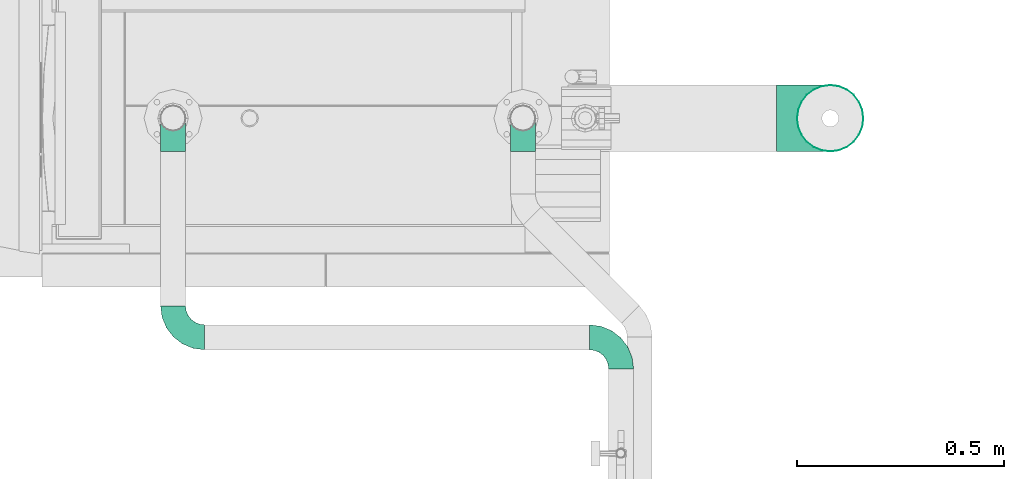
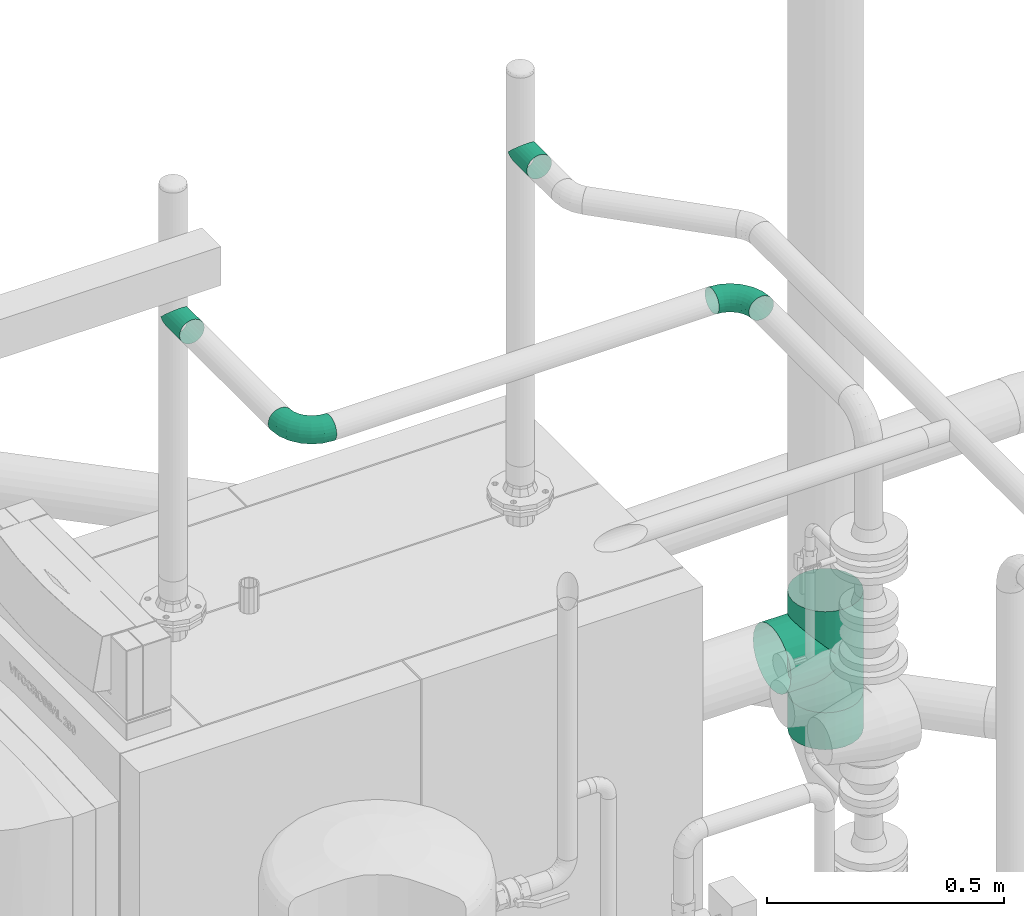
# One storey, part 118 of 374: 5 flow segments, 1 flow fitting.
"""IFC2X3 building model written with IfcOpenShell, lengths in metres."""

from ifc_helpers import new_model, si_unit, direction, origin, place, context, subcontext, project, spatial, open_shell, surface_model, source, transform, mapped, element, save


model = new_model("IFC2X3")

# Units and contexts
model_context = context("Model", 3, precision=1e-05, world=origin(), true_north=direction((-0.4480736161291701, 0.8939966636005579)))
body_context = subcontext(model_context, "Body", "Model", "MODEL_VIEW")
ifc_project = project(units=[si_unit("LENGTHUNIT", "METRE"), si_unit("AREAUNIT", "SQUARE_METRE"), si_unit("VOLUMEUNIT", "CUBIC_METRE"), si_unit("PLANEANGLEUNIT", "RADIAN"), si_unit("THERMODYNAMICTEMPERATUREUNIT", "KELVIN"), si_unit("MASSUNIT", "GRAM", prefix="KILO"), si_unit("TIMEUNIT", "SECOND")], contexts=[model_context])

# Site, building, storey
site_placement = place(None, origin())
site = spatial("IfcSite", under=ifc_project, at=site_placement, Name="Site 1", CompositionType="ELEMENT")
building_placement = place(site_placement, origin())
building = spatial("IfcBuilding", under=site, at=building_placement, Name="Undefined", CompositionType="ELEMENT")
storey_placement = place(building_placement, origin())
storey = spatial("IfcBuildingStorey", under=building, at=storey_placement, Name="Rez de chauss\x8ee", CompositionType="ELEMENT", Elevation=0.0)

# Flow segment
shared_shape_1 = source(origin(), body_context, "Body", "SurfaceModel", [
    surface_model("IfcFaceBasedSurfaceModel", [(0.0, 0.020884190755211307, 0.0), (0.0, 0.0, 0.0), (0.09500000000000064, -7.105427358e-15, 0.0), (0.09499999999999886, 0.020884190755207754, 0.0), (0.0, -0.020172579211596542, -0.005405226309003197), (0.09499999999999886, -0.020172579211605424, -0.005405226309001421), (0.0, -0.03825881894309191, -0.015847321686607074), (0.09499999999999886, -0.03825881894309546, -0.015847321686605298), (0.0, -0.05302617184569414, -0.0306146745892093), (0.09499999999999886, -0.05302617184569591, -0.030614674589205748), (0.0, -0.06346826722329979, -0.04870091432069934), (0.09499999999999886, -0.06346826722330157, -0.048700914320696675), (0.0, -0.06887349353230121, -0.06887349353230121), (0.09499999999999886, -0.06887349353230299, -0.06887349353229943), (0.0, -0.06887349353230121, -0.08975768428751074), (0.09499999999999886, -0.06887349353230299, -0.08975768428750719), (0.0, -0.06346826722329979, -0.10993026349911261), (0.09499999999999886, -0.06346826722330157, -0.10993026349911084), (0.0, -0.05302617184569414, -0.12801650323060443), (0.09499999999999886, -0.05302617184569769, -0.12801650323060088), (0.0, -0.038258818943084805, -0.14278385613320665), (0.09499999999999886, -0.03825881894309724, -0.1427838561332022), (0.0, -0.020172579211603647, -0.15322595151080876), (0.09499999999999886, -0.0201725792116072, -0.15322595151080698), (0.0, 7.105427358e-15, -0.15863117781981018), (0.09499999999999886, -3.552713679e-15, -0.1586311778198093), (0.0, 0.020884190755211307, -0.15863117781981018), (0.09499999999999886, 0.0208841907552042, -0.1586311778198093), (0.0, 0.04105676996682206, -0.15322595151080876), (0.09499999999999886, 0.04105676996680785, -0.15322595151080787), (0.0, 0.05914300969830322, -0.1427838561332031), (0.09499999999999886, 0.059143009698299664, -0.142783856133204), (0.0, 0.07391036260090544, -0.12801650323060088), (0.09499999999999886, 0.07391036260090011, -0.12801650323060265), (0.0, 0.0843524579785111, -0.10993026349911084), (0.09499999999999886, 0.08435245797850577, -0.10993026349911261), (0.0, 0.08975768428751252, -0.08975768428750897), (0.09499999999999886, 0.08975768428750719, -0.08975768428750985), (0.0, 0.08975768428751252, -0.06887349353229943), (0.09499999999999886, 0.08975768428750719, -0.06887349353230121), (0.0, 0.0843524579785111, -0.048700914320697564), (0.09499999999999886, 0.08435245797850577, -0.04870091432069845), (0.0, 0.07391036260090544, -0.030614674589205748), (0.09499999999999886, 0.07391036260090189, -0.030614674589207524), (0.0, 0.05914300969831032, -0.015847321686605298), (0.09499999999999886, 0.059143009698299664, -0.015847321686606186), (0.0, 0.04105676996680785, -0.005405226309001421), (0.09499999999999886, 0.041056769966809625, -0.005405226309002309)], [open_shell([[[0, 1, 2, 3]], [[1, 4, 5, 2]], [[4, 6, 7, 5]], [[6, 8, 9, 7]], [[8, 10, 11, 9]], [[10, 12, 13, 11]], [[12, 14, 15, 13]], [[14, 16, 17, 15]], [[16, 18, 19, 17]], [[18, 20, 21, 19]], [[20, 22, 23, 21]], [[22, 24, 25, 23]], [[24, 26, 27, 25]], [[26, 28, 29, 27]], [[28, 30, 31, 29]], [[30, 32, 33, 31]], [[32, 34, 35, 33]], [[34, 36, 37, 35]], [[36, 38, 39, 37]], [[38, 40, 41, 39]], [[40, 42, 43, 41]], [[42, 44, 45, 43]], [[44, 46, 47, 45]], [[46, 0, 3, 47]]])]),
])
flow_segment_1_placement = place(storey_placement, origin())
element("IfcFlowSegment", 1, at=flow_segment_1_placement, inside=storey, Name="Manchon", ObjectType="Manchon", context=body_context, shape_type="MappedRepresentation", body=[
    mapped(shared_shape_1, transform((55.52532337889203, 13.133209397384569, 0.530590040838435), x_axis=(0.0, 0.0, -1.0), y_axis=(-0.9914448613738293, 0.13052619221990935, 0.0), z_axis=(0.13052619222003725, 0.9914448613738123, 0.0))),
])

# Flow fitting
shared_shape_2 = source(origin(), body_context, "Body", "SurfaceModel", [
    surface_model("IfcFaceBasedSurfaceModel", [(0.0, 0.020884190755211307, 0.0), (0.0, 0.0, 0.0), (0.2599999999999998, -7.105427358e-15, 0.0), (0.2599999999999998, 0.0208841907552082, -4.4408921e-16), (0.0, -0.020172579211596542, -0.005405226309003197), (0.2599999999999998, -0.020172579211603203, -0.005405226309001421), (0.0, -0.03825881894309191, -0.015847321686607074), (0.2599999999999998, -0.038258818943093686, -0.015847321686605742), (0.0, -0.05302617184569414, -0.0306146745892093), (0.2599999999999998, -0.053026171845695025, -0.030614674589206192), (0.0, -0.06346826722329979, -0.04870091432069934), (0.2599999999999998, -0.06346826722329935, -0.04870091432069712), (0.0, -0.06887349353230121, -0.06887349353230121), (0.2599999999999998, -0.06887349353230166, -0.06887349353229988), (0.0, -0.06887349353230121, -0.08975768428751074), (0.2599999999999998, -0.06887349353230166, -0.08975768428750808), (0.0, -0.06346826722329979, -0.10993026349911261), (0.2599999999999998, -0.06346826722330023, -0.10993026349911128), (0.0, -0.05302617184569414, -0.12801650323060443), (0.2599999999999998, -0.05302617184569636, -0.12801650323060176), (0.0, -0.038258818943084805, -0.14278385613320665), (0.2599999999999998, -0.03825881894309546, -0.1427838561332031), (0.0, -0.020172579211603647, -0.15322595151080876), (0.2599999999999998, -0.02017257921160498, -0.15322595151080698), (0.0, 7.105427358e-15, -0.15863117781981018), (0.2599999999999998, -1.776356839e-15, -0.15863117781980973), (0.0, 0.020884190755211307, -0.15863117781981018), (0.2599999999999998, 0.020884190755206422, -0.15863117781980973), (0.0, 0.04105676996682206, -0.15322595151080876), (0.2599999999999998, 0.04105676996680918, -0.1532259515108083), (0.0, 0.05914300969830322, -0.1427838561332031), (0.2599999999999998, 0.059143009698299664, -0.14278385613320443), (0.0, 0.07391036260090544, -0.12801650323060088), (0.2599999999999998, 0.073910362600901, -0.12801650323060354), (0.0, 0.0843524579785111, -0.10993026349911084), (0.2599999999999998, 0.08435245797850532, -0.10993026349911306), (0.0, 0.08975768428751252, -0.08975768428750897), (0.2599999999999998, 0.08975768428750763, -0.08975768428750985), (0.0, 0.08975768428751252, -0.06887349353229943), (0.2599999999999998, 0.08975768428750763, -0.0688734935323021), (0.0, 0.0843524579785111, -0.048700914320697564), (0.2599999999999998, 0.08435245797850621, -0.04870091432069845), (0.0, 0.07391036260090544, -0.030614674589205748), (0.2599999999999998, 0.07391036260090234, -0.030614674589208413), (0.0, 0.05914300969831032, -0.015847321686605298), (0.2599999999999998, 0.05914300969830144, -0.01584732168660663), (0.0, 0.04105676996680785, -0.005405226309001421), (0.2599999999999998, 0.0410567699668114, -0.005405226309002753), (0.20999999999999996, 0.08975768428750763, -0.08975768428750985), (0.20727406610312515, 0.08435245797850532, -0.10993026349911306), (0.20727406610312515, 0.13662731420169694, -0.11681237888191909), (0.20999999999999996, 0.13932992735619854, -0.09628399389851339), (0.19928203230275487, 0.073910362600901, -0.12801650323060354), (0.19928203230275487, 0.1341088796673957, -0.13594178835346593), (0.18656854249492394, 0.059143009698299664, -0.14278385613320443), (0.18656854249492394, 0.13194625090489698, -0.15236858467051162), (0.16999999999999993, 0.04105676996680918, -0.1532259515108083), (0.16999999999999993, 0.13028680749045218, -0.16497330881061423), (0.15070552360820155, 0.020884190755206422, -0.15863117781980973), (0.15070552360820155, 0.12924363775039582, -0.17289696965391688), (0.1299999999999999, -1.776356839e-15, -0.15863117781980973), (0.1299999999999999, 0.12888783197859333, -0.17559958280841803), (0.10929447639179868, 0.020884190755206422, -0.15863117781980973), (0.10929447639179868, 0.12924363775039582, -0.17289696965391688), (0.08999999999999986, 0.04105676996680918, -0.1532259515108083), (0.08999999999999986, 0.13028680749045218, -0.16497330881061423), (0.07343145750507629, 0.059143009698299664, -0.14278385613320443), (0.07343145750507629, 0.13194625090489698, -0.15236858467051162), (0.06071796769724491, 0.073910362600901, -0.12801650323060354), (0.06071796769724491, 0.1341088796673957, -0.13594178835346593), (0.05272593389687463, 0.08435245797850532, -0.10993026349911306), (0.05272593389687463, 0.13662731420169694, -0.11681237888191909), (0.05000000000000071, 0.08975768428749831, -0.08975768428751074), (0.04999999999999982, 0.13932992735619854, -0.09628399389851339), (0.05272593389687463, 0.08975768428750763, -0.0688734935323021), (0.05272593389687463, 0.14203254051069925, -0.07575560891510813), (0.06071796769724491, 0.08435245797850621, -0.04870091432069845), (0.06071796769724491, 0.14455097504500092, -0.05662619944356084), (0.07343145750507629, 0.07391036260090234, -0.030614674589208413), (0.07343145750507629, 0.14671360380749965, -0.0401994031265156), (0.08999999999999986, 0.05914300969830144, -0.01584732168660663), (0.08999999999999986, 0.14837304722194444, -0.027594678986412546), (0.10929447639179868, 0.0410567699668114, -0.005405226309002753), (0.10929447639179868, 0.1494162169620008, -0.019671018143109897), (0.1299999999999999, 0.0208841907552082, -4.4408921e-16), (0.1299999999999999, 0.1497720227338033, -0.016968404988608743), (0.15070552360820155, 0.0410567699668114, -0.005405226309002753), (0.15070552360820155, 0.1494162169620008, -0.019671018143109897), (0.16999999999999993, 0.05914300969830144, -0.01584732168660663), (0.16999999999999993, 0.14837304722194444, -0.027594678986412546), (0.18656854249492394, 0.07391036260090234, -0.030614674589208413), (0.18656854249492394, 0.14671360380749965, -0.0401994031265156), (0.19928203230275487, 0.08435245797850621, -0.04870091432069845), (0.19928203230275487, 0.14455097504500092, -0.05662619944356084), (0.20727406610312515, 0.08975768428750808, -0.06887349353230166), (0.20727406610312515, 0.1420325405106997, -0.07575560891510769)], [open_shell([[[0, 1, 2, 3]], [[1, 4, 5, 2]], [[4, 6, 7, 5]], [[6, 8, 9, 7]], [[8, 10, 11, 9]], [[10, 12, 13, 11]], [[12, 14, 15, 13]], [[14, 16, 17, 15]], [[16, 18, 19, 17]], [[18, 20, 21, 19]], [[20, 22, 23, 21]], [[22, 24, 25, 23]], [[24, 26, 27, 25]], [[26, 28, 29, 27]], [[28, 30, 31, 29]], [[30, 32, 33, 31]], [[32, 34, 35, 33]], [[34, 36, 37, 35]], [[36, 38, 39, 37]], [[38, 40, 41, 39]], [[40, 42, 43, 41]], [[42, 44, 45, 43]], [[44, 46, 47, 45]], [[46, 0, 3, 47]], [[48, 49, 50, 51]], [[49, 52, 53, 50]], [[52, 54, 55, 53]], [[54, 56, 57, 55]], [[56, 58, 59, 57]], [[58, 60, 61, 59]], [[60, 62, 63, 61]], [[62, 64, 65, 63]], [[64, 66, 67, 65]], [[66, 68, 69, 67]], [[68, 70, 71, 69]], [[70, 72, 73, 71]], [[72, 74, 75, 73]], [[74, 76, 77, 75]], [[76, 78, 79, 77]], [[78, 80, 81, 79]], [[80, 82, 83, 81]], [[82, 84, 85, 83]], [[84, 86, 87, 85]], [[86, 88, 89, 87]], [[88, 90, 91, 89]], [[90, 92, 93, 91]], [[92, 94, 95, 93]], [[94, 48, 51, 95]]])]),
])
flow_fitting_placement = place(storey_placement, origin())
element("IfcFlowFitting", 2, at=flow_fitting_placement, inside=storey, Name="Pièce en té 90°", ObjectType="Pièce en té 90°", context=body_context, shape_type="MappedRepresentation", body=[
    mapped(shared_shape_2, transform((55.52532337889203, 12.978661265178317, 0.530590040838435), x_axis=(0.0, 0.0, 1.0), y_axis=(-0.9914448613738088, -0.13052619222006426, 0.0), z_axis=(0.13052619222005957, -0.9914448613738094, 0.0))),
])

# Flow segments
shared_shape_3 = source(origin(), body_context, "Body", "SurfaceModel", [
    surface_model("IfcFaceBasedSurfaceModel", [(0.0010273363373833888, 0.007870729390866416, -8.8817842e-16), (0.0, 0.0, 0.0), (0.0510273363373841, -7.105427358e-15, -8.8817842e-16), (0.0510273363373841, 0.007870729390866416, -8.8817842e-16), (-0.0030119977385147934, -0.007602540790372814, -0.002037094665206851), (0.0510273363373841, -0.007602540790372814, -0.002037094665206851), (-0.007803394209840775, -0.014418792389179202, -0.005972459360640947), (0.0510273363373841, -0.014418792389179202, -0.005972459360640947), (-0.01404766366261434, -0.01998423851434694, -0.011537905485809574), (0.0510273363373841, -0.01998423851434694, -0.011537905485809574), (-0.021319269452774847, -0.023919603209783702, -0.018354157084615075), (0.0510273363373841, -0.023919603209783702, -0.018354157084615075), (-0.029122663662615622, -0.025956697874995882, -0.025956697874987), (0.0510273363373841, -0.025956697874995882, -0.025956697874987), (-0.021319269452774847, -0.025956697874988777, -0.03382742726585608), (0.0510273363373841, -0.025956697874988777, -0.03382742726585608), (-0.01404766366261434, -0.023919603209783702, -0.04142996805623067), (0.0510273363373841, -0.023919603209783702, -0.04142996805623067), (-0.007803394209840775, -0.01998423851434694, -0.04824621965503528), (0.0510273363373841, -0.01998423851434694, -0.04824621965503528), (-0.0030119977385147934, -0.014418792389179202, -0.05381166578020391), (0.0510273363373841, -0.014418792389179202, -0.05381166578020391), (0.0, -0.007602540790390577, -0.05774703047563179), (0.0510273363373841, -0.007602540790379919, -0.05774703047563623), (0.0010273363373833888, 0.0, -0.05978412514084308), (0.0510273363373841, 0.0, -0.05978412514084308), (0.0, 0.007870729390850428, -0.05978412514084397), (0.0510273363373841, 0.007870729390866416, -0.059784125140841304), (-0.0030119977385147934, 0.01547327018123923, -0.05774703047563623), (0.0510273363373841, 0.01547327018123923, -0.05774703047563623), (-0.007803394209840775, 0.022289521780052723, -0.053811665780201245), (0.0510273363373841, 0.022289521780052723, -0.053811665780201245), (-0.01404766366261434, 0.02785496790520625, -0.048246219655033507), (0.0510273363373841, 0.02785496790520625, -0.048246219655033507), (-0.021319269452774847, 0.03179033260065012, -0.04142996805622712), (0.0510273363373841, 0.03179033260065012, -0.04142996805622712), (-0.029122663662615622, 0.03382742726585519, -0.03382742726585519), (0.0510273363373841, 0.03382742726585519, -0.03382742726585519), (-0.021319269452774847, 0.03382742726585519, -0.025956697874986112), (0.0510273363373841, 0.03382742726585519, -0.025956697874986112), (-0.01404766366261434, 0.03179033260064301, -0.01835415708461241), (0.0510273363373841, 0.03179033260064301, -0.01835415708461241), (-0.007803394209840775, 0.027854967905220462, -0.011537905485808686), (0.0510273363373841, 0.027854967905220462, -0.011537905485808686), (-0.0030119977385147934, 0.022289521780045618, -0.005972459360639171), (0.0510273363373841, 0.022289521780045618, -0.005972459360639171), (0.0, 0.015473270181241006, -0.0020370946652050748), (0.0510273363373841, 0.01547327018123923, -0.002037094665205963)], [open_shell([[[0, 1, 2, 3]], [[1, 4, 5, 2]], [[4, 6, 7, 5]], [[6, 8, 9, 7]], [[8, 10, 11, 9]], [[10, 12, 13, 11]], [[12, 14, 15, 13]], [[14, 16, 17, 15]], [[16, 18, 19, 17]], [[18, 20, 21, 19]], [[20, 22, 23, 21]], [[22, 24, 25, 23]], [[24, 26, 27, 25]], [[26, 28, 29, 27]], [[28, 30, 31, 29]], [[30, 32, 33, 31]], [[32, 34, 35, 33]], [[34, 36, 37, 35]], [[36, 38, 39, 37]], [[38, 40, 41, 39]], [[40, 42, 43, 41]], [[42, 44, 45, 43]], [[44, 46, 47, 45]], [[46, 0, 3, 47]]])]),
])
flow_segment_2_placement = place(storey_placement, origin())
element("IfcFlowSegment", 3, at=flow_segment_2_placement, inside=storey, Name="Piquage sur circulaire 90°", ObjectType="Piquage sur circulaire 90°", context=body_context, shape_type="MappedRepresentation", body=[
    mapped(shared_shape_3, transform((53.909296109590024, 13.027090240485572, 2.0887643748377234), x_axis=(0.0, -1.0, 0.0), y_axis=(0.9914448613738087, 0.0, 0.13052619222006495), z_axis=(-0.13052619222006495, 0.0, 0.9914448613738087))),
])
flow_segment_3_placement = place(storey_placement, origin())
element("IfcFlowSegment", 4, at=flow_segment_3_placement, inside=storey, Name="Piquage sur circulaire 90°", ObjectType="Piquage sur circulaire 90°", context=body_context, shape_type="MappedRepresentation", body=[
    mapped(shared_shape_3, transform((54.75429610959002, 13.027090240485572, 2.2171226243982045), x_axis=(0.0, -1.0, 0.0), y_axis=(0.9914448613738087, 0.0, 0.13052619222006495), z_axis=(-0.13052619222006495, 0.0, 0.9914448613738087))),
])
shared_shape_4 = source(origin(), body_context, "Body", "SurfaceModel", [
    surface_model("IfcFaceBasedSurfaceModel", [(0.027710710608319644, 4.4408921e-16, 0.0), (0.02757661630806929, 0.00786958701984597, 7.105427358e-15), (0.00013409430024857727, 0.00786958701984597, 0.0), (0.0, 0.0, 0.0), (-0.02637334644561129, 0.008788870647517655, -0.0070429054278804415), (-0.026766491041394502, 0.0009282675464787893, -0.007111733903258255), (-0.050139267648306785, 0.010564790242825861, -0.02064875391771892), (-0.050764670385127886, 0.0027215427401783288, -0.02085054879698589), (-0.06954406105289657, 0.013076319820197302, -0.03989032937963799), (-0.07035910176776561, 0.00525761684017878, -0.04028016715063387), (-0.0832653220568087, 0.01615230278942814, -0.06345635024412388), (-0.08421445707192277, 0.00836366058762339, -0.06407649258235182), (-0.09036796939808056, 0.019583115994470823, -0.08974083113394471), (-0.0913865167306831, 0.011828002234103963, -0.09061784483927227), (0.027183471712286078, 0.015466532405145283, -0.0020199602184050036), (0.0005272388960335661, 0.015466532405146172, -0.0020199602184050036), (-0.025220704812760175, 0.016359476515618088, -0.008861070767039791), (-0.048305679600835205, 0.018084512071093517, -0.02207708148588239), (-0.06715448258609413, 0.020524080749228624, -0.04076734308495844), (-0.0804825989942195, 0.023511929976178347, -0.06365814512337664), (-0.08738173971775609, 0.026844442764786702, -0.08918951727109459), (0.026558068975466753, 0.022273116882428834, -0.005922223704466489), (0.001152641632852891, 0.02227311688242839, -0.005922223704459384), (-0.02338711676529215, 0.023124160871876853, -0.012442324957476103), (-0.04538886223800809, 0.02476825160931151, -0.02503819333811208), (-0.06335321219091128, 0.027093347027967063, -0.042851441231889), (-0.07605592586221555, 0.029940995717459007, -0.06466812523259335), (-0.08263133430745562, 0.033117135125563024, -0.08900147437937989), (0.025743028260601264, 0.0278254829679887, -0.011440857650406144), (0.0019676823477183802, 0.027825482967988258, -0.011440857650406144), (-0.020997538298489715, 0.028621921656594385, -0.017542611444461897), (-0.04158759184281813, 0.03016052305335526, -0.029330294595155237), (-0.058399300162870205, 0.0323364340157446, -0.04600059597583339), (-0.07028697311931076, 0.03500136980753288, -0.06641746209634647), (-0.07644048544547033, 0.0379737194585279, -0.08918951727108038), (0.02479389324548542, 0.03174524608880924, -0.01819977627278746), (0.0029168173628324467, 0.03174524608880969, -0.01819977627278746), (-0.018214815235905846, 0.0324780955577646, -0.023814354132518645), (-0.03716091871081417, 0.033893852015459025, -0.034660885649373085), (-0.052630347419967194, 0.03589603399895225, -0.05000019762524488), (-0.06356888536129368, 0.03834819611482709, -0.06878694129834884), (-0.06923108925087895, 0.041083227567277, -0.0897408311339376), (0.023775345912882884, 0.03376528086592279, -0.02573837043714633), (0.003935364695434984, 0.03376528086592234, -0.02573837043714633), (-0.01522858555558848, 0.03442989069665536, -0.03083014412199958), (-0.0324105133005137, 0.03571381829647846, -0.040666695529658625), (-0.046439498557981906, 0.0375295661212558, -0.05457767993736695), (-0.05635948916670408, 0.039753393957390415, -0.07161508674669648), (-0.061494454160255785, 0.04223375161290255, -0.09061784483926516), (0.022756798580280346, 0.03374792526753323, -0.033542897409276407), (0.0049539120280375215, 0.033747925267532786, -0.033542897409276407), (-0.01224235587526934, 0.03434429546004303, -0.03811186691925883), (-0.027660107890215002, 0.035496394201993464, -0.04693843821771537), (-0.040248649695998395, 0.0371257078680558, -0.05942109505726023), (-0.04915009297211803, 0.039121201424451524, -0.07470916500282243), (-0.05375781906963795, 0.041346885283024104, -0.09176079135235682), (0.02180766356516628, 0.03169436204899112, -0.04108149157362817), (0.005903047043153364, 0.031694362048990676, -0.04108149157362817), (-0.00945963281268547, 0.03222714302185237, -0.045163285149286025), (-0.02323343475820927, 0.03325639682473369, -0.05304870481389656), (-0.034479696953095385, 0.034711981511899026, -0.06420037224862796), (-0.04243200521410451, 0.036494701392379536, -0.07785831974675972), (-0.04654842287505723, 0.03848306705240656, -0.09309178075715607), (0.020992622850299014, 0.02774453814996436, -0.0478404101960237), (0.006718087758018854, 0.027744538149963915, -0.0478404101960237), (-0.007070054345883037, 0.02822271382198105, -0.05150385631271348), (-0.019432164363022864, 0.0291464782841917, -0.0585810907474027), (-0.029525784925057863, 0.030452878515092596, -0.06858981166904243), (-0.03666305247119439, 0.032052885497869, -0.08084794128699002), (-0.04035757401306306, 0.03383746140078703, -0.09452010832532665), (0.020367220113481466, 0.022167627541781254, -0.05335904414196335), (0.0073434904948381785, 0.022167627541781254, -0.05335904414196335), (-0.00523646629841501, 0.02260390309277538, -0.05670148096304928), (-0.016515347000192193, 0.023446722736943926, -0.06315857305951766), (-0.025724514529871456, 0.02463864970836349, -0.07229028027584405), (-0.03223637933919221, 0.02609845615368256, -0.0834742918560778), (-0.03560716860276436, 0.027726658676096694, -0.09594843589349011), (0.019974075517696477, 0.01534368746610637, -0.05726130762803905), (0.007736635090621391, 0.01534368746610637, -0.05726130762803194), (-0.004083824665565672, 0.01575362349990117, -0.06040194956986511), (-0.014681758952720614, 0.01654555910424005, -0.06646920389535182), (-0.02333493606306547, 0.01766552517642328, -0.07504959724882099), (-0.029453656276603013, 0.01903719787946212, -0.08555839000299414), (-0.032620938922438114, 0.02056709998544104, -0.09727942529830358), (0.019839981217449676, 0.00773775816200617, -0.05928126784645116), (0.007870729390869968, 0.007737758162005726, -0.05928126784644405), (-0.003690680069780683, 0.008138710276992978, -0.062353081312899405), (-0.014056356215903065, 0.008913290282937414, -0.06828736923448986), (-0.022519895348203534, 0.01000871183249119, -0.07667971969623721), (-0.0285045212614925, 0.011350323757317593, -0.08695820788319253), (-0.03160239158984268, 0.012846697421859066, -0.09842237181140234), (0.019974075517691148, -0.00013182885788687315, -0.05928126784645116), (0.007736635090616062, -0.00013182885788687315, -0.05928126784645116), (-0.004083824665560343, 0.0002781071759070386, -0.062421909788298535), (-0.014681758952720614, 0.001070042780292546, -0.06848916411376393), (-0.02333493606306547, 0.0021900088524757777, -0.0770695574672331), (-0.029453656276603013, 0.0035616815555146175, -0.08757835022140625), (-0.032620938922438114, 0.005091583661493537, -0.09929938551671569), (0.020367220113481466, -0.007728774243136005, -0.057261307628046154), (0.0073434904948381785, -0.007728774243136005, -0.057261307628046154), (-0.00523646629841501, -0.00729249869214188, -0.06060374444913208), (-0.016515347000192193, -0.0064496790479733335, -0.06706083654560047), (-0.025724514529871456, -0.005257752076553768, -0.07619254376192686), (-0.03223637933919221, -0.0037979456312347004, -0.0873765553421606), (-0.03560716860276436, -0.0021697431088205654, -0.09985069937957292), (0.020992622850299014, -0.01453535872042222, -0.053359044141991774), (0.006718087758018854, -0.014535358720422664, -0.053359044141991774), (-0.007070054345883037, -0.01405718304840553, -0.05702249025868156), (-0.019432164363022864, -0.013133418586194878, -0.06409972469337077), (-0.029525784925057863, -0.011827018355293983, -0.07410844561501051), (-0.03666305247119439, -0.01022701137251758, -0.0863665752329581), (-0.04035757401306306, -0.008442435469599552, -0.10003874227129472), (0.02180766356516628, -0.020087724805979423, -0.04784041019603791), (0.005903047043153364, -0.020087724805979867, -0.04784041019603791), (-0.00945963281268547, -0.019554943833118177, -0.05192220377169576), (-0.02323343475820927, -0.018525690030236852, -0.0598076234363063), (-0.034479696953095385, -0.017070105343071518, -0.0709592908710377), (-0.04243200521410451, -0.015287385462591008, -0.08461723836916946), (-0.04654842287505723, -0.013299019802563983, -0.09985069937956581), (0.022756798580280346, -0.024007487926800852, -0.0410814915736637), (0.0049539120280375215, -0.024007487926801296, -0.0410814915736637), (-0.01224235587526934, -0.023411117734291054, -0.04565046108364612), (-0.027660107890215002, -0.022259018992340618, -0.054477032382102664), (-0.040248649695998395, -0.02062970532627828, -0.06695968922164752), (-0.04915009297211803, -0.018634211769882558, -0.08224775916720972), (-0.05375781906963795, -0.016408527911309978, -0.09929938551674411), (0.023775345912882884, -0.026027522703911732, -0.033542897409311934), (0.003935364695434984, -0.026027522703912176, -0.033542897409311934), (-0.01522858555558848, -0.025362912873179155, -0.038634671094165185), (-0.0324105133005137, -0.024078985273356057, -0.04847122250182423), (-0.046439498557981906, -0.02226323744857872, -0.062382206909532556), (-0.05635948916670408, -0.020039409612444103, -0.07941961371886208), (-0.061494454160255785, -0.01755905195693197, -0.09842237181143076), (0.02479389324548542, -0.02601016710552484, -0.02573837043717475), (0.0029168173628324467, -0.026010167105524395, -0.02573837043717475), (-0.018214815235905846, -0.025277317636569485, -0.031352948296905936), (-0.03716091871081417, -0.023861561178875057, -0.04219947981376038), (-0.052630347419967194, -0.021859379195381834, -0.05753879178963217), (-0.06356888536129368, -0.01940721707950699, -0.07632553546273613), (-0.06923108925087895, -0.01667218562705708, -0.0972794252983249), (0.025743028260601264, -0.023956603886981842, -0.018199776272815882), (0.0019676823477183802, -0.023956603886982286, -0.018199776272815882), (-0.020997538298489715, -0.02316016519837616, -0.024301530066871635), (-0.04158759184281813, -0.021621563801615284, -0.036089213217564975), (-0.058399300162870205, -0.019445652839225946, -0.05275951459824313), (-0.07028697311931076, -0.016780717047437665, -0.0731763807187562), (-0.07644048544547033, -0.013808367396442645, -0.09594843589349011), (0.026558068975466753, -0.020006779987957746, -0.011440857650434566), (0.001152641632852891, -0.02000677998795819, -0.01144085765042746), (-0.02338711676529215, -0.019155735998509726, -0.01796095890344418), (-0.04538886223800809, -0.01751164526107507, -0.030556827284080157), (-0.06335321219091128, -0.015186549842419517, -0.048370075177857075), (-0.07605592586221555, -0.012338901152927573, -0.07018675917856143), (-0.08263133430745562, -0.009162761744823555, -0.09452010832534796), (0.027183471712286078, -0.014429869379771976, -0.005922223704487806), (0.0005272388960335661, -0.014429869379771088, -0.005922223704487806), (-0.025220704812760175, -0.013536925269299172, -0.012763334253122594), (-0.048305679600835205, -0.011811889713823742, -0.02597934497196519), (-0.06715448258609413, -0.009372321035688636, -0.04466960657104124), (-0.0804825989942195, -0.006384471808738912, -0.06756040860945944), (-0.08738173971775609, -0.003051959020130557, -0.09309178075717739), (0.02757661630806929, -0.007605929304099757, -0.0020199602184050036), (0.00013409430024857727, -0.007605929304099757, -0.002019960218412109), (-0.02637334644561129, -0.006686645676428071, -0.00906286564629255), (-0.050139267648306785, -0.004910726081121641, -0.02266871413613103), (-0.06954406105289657, -0.0023991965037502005, -0.0419102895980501), (-0.0832653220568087, 0.0006767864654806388, -0.06547631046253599), (-0.09036796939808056, 0.004107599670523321, -0.09176079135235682)], [open_shell([[[0, 1, 2, 3]], [[3, 2, 4, 5]], [[5, 4, 6, 7]], [[7, 6, 8, 9]], [[9, 8, 10, 11]], [[11, 10, 12, 13]], [[1, 14, 15, 2]], [[2, 15, 16, 4]], [[4, 16, 17, 6]], [[6, 17, 18, 8]], [[8, 18, 19, 10]], [[10, 19, 20, 12]], [[14, 21, 22, 15]], [[15, 22, 23, 16]], [[16, 23, 24, 17]], [[17, 24, 25, 18]], [[18, 25, 26, 19]], [[19, 26, 27, 20]], [[21, 28, 29, 22]], [[22, 29, 30, 23]], [[23, 30, 31, 24]], [[24, 31, 32, 25]], [[25, 32, 33, 26]], [[26, 33, 34, 27]], [[28, 35, 36, 29]], [[29, 36, 37, 30]], [[30, 37, 38, 31]], [[31, 38, 39, 32]], [[32, 39, 40, 33]], [[33, 40, 41, 34]], [[35, 42, 43, 36]], [[36, 43, 44, 37]], [[37, 44, 45, 38]], [[38, 45, 46, 39]], [[39, 46, 47, 40]], [[40, 47, 48, 41]], [[42, 49, 50, 43]], [[43, 50, 51, 44]], [[44, 51, 52, 45]], [[45, 52, 53, 46]], [[46, 53, 54, 47]], [[47, 54, 55, 48]], [[49, 56, 57, 50]], [[50, 57, 58, 51]], [[51, 58, 59, 52]], [[52, 59, 60, 53]], [[53, 60, 61, 54]], [[54, 61, 62, 55]], [[56, 63, 64, 57]], [[57, 64, 65, 58]], [[58, 65, 66, 59]], [[59, 66, 67, 60]], [[60, 67, 68, 61]], [[61, 68, 69, 62]], [[63, 70, 71, 64]], [[64, 71, 72, 65]], [[65, 72, 73, 66]], [[66, 73, 74, 67]], [[67, 74, 75, 68]], [[68, 75, 76, 69]], [[70, 77, 78, 71]], [[71, 78, 79, 72]], [[72, 79, 80, 73]], [[73, 80, 81, 74]], [[74, 81, 82, 75]], [[75, 82, 83, 76]], [[77, 84, 85, 78]], [[78, 85, 86, 79]], [[79, 86, 87, 80]], [[80, 87, 88, 81]], [[81, 88, 89, 82]], [[82, 89, 90, 83]], [[84, 91, 92, 85]], [[85, 92, 93, 86]], [[86, 93, 94, 87]], [[87, 94, 95, 88]], [[88, 95, 96, 89]], [[89, 96, 97, 90]], [[91, 98, 99, 92]], [[92, 99, 100, 93]], [[93, 100, 101, 94]], [[94, 101, 102, 95]], [[95, 102, 103, 96]], [[96, 103, 104, 97]], [[98, 105, 106, 99]], [[99, 106, 107, 100]], [[100, 107, 108, 101]], [[101, 108, 109, 102]], [[102, 109, 110, 103]], [[103, 110, 111, 104]], [[105, 112, 113, 106]], [[106, 113, 114, 107]], [[107, 114, 115, 108]], [[108, 115, 116, 109]], [[109, 116, 117, 110]], [[110, 117, 118, 111]], [[112, 119, 120, 113]], [[113, 120, 121, 114]], [[114, 121, 122, 115]], [[115, 122, 123, 116]], [[116, 123, 124, 117]], [[117, 124, 125, 118]], [[119, 126, 127, 120]], [[120, 127, 128, 121]], [[121, 128, 129, 122]], [[122, 129, 130, 123]], [[123, 130, 131, 124]], [[124, 131, 132, 125]], [[126, 133, 134, 127]], [[127, 134, 135, 128]], [[128, 135, 136, 129]], [[129, 136, 137, 130]], [[130, 137, 138, 131]], [[131, 138, 139, 132]], [[133, 140, 141, 134]], [[134, 141, 142, 135]], [[135, 142, 143, 136]], [[136, 143, 144, 137]], [[137, 144, 145, 138]], [[138, 145, 146, 139]], [[140, 147, 148, 141]], [[141, 148, 149, 142]], [[142, 149, 150, 143]], [[143, 150, 151, 144]], [[144, 151, 152, 145]], [[145, 152, 153, 146]], [[147, 154, 155, 148]], [[148, 155, 156, 149]], [[149, 156, 157, 150]], [[150, 157, 158, 151]], [[151, 158, 159, 152]], [[152, 159, 160, 153]], [[154, 161, 162, 155]], [[155, 162, 163, 156]], [[156, 163, 164, 157]], [[157, 164, 165, 158]], [[158, 165, 166, 159]], [[159, 166, 167, 160]], [[161, 0, 3, 162]], [[162, 3, 5, 163]], [[163, 5, 7, 164]], [[164, 7, 9, 165]], [[165, 9, 11, 166]], [[166, 11, 13, 167]]])]),
])
flow_segment_4_placement = place(storey_placement, origin())
element("IfcFlowSegment", 5, at=flow_segment_4_placement, inside=storey, Name="Tube coudé", ObjectType="Tube coudé", context=body_context, shape_type="MappedRepresentation", body=[
    mapped(shared_shape_4, transform((54.95080288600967, 12.553654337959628, 2.059641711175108), x_axis=(-0.9914448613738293, 0.13052619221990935, 0.0), y_axis=(-0.016893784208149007, -0.12832103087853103, 0.9915887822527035), z_axis=(0.12942830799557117, 0.9831056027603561, 0.12942830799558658))),
])
flow_segment_5_placement = place(storey_placement, origin())
element("IfcFlowSegment", 6, at=flow_segment_5_placement, inside=storey, Name="Tube coudé", ObjectType="Tube coudé", context=body_context, shape_type="MappedRepresentation", body=[
    mapped(shared_shape_4, transform((53.965625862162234, 12.50058828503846, 2.059641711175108), x_axis=(0.9914448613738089, -0.13052619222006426, 0.0), y_axis=(0.016893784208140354, 0.12832103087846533, 0.9915887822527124), z_axis=(-0.1294283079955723, -0.9831056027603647, 0.12942830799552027))),
])

save(model, "model.ifc")
